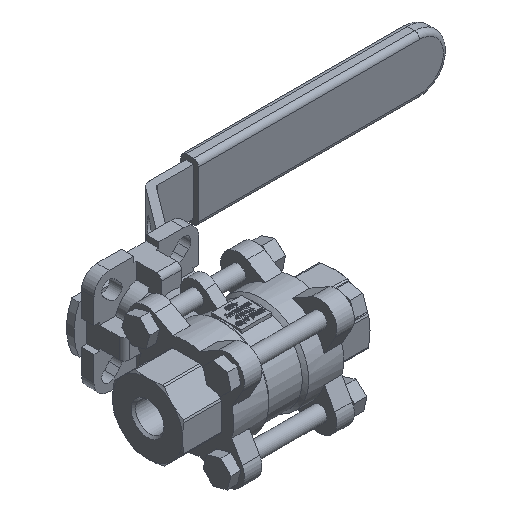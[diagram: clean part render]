
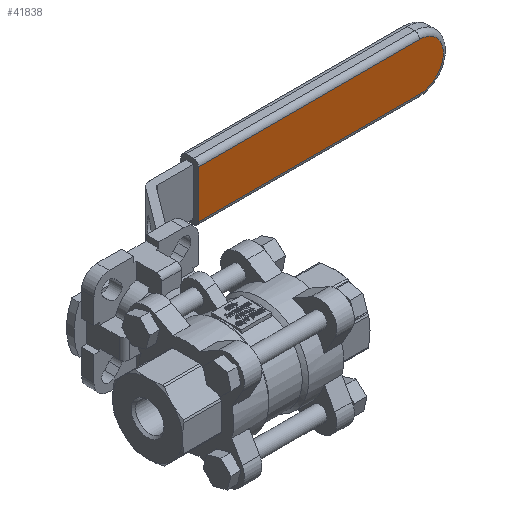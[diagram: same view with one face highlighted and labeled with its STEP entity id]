
A CAD part, isometric view. The second image highlights one B-rep face of the part: STEP entity #41838.
In plain terms, the highlighted planar face has unit normal (0, -1, 0).
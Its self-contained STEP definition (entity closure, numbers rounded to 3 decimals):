
#41721=CARTESIAN_POINT('',(50.335,67.5,9.5));
#41722=VERTEX_POINT('',#41721);
#41730=CARTESIAN_POINT('',(138.835,67.5,9.5));
#41731=VERTEX_POINT('',#41730);
#41732=CARTESIAN_POINT('',(50.335,67.5,9.5));
#41733=DIRECTION('',(1.0,0.0,0.0));
#41734=VECTOR('',#41733,88.5);
#41735=LINE('',#41732,#41734);
#41736=EDGE_CURVE('',#41722,#41731,#41735,.T.);
#41761=CARTESIAN_POINT('',(138.835,67.5,-9.5));
#41762=VERTEX_POINT('',#41761);
#41780=CARTESIAN_POINT('',(138.835,67.5,0.));
#41781=DIRECTION('',(0.0,1.0,0.0));
#41782=DIRECTION('',(1.0,0.0,0.0));
#41783=AXIS2_PLACEMENT_3D('',#41780,#41781,#41782);
#41784=CIRCLE('',#41783,9.5);
#41785=EDGE_CURVE('',#41731,#41762,#41784,.T.);
#41795=CARTESIAN_POINT('',(50.335,67.5,-9.5));
#41796=VERTEX_POINT('',#41795);
#41813=CARTESIAN_POINT('',(138.835,67.5,-9.5));
#41814=DIRECTION('',(-1.0,0.0,0.0));
#41815=VECTOR('',#41814,88.5);
#41816=LINE('',#41813,#41815);
#41817=EDGE_CURVE('',#41762,#41796,#41816,.T.);
#41822=CARTESIAN_POINT('',(50.335,67.5,-11.5));
#41823=DIRECTION('',(0.0,-1.0,0.0));
#41824=DIRECTION('',(0.0,0.0,-1.0));
#41825=AXIS2_PLACEMENT_3D('',#41822,#41823,#41824);
#41826=PLANE('',#41825);
#41827=ORIENTED_EDGE('',*,*,#41817,.F.);
#41828=ORIENTED_EDGE('',*,*,#41785,.F.);
#41829=ORIENTED_EDGE('',*,*,#41736,.F.);
#41830=CARTESIAN_POINT('',(50.335,67.5,-9.5));
#41831=DIRECTION('',(0.0,0.0,1.0));
#41832=VECTOR('',#41831,19.0);
#41833=LINE('',#41830,#41832);
#41834=EDGE_CURVE('',#41796,#41722,#41833,.T.);
#41835=ORIENTED_EDGE('',*,*,#41834,.F.);
#41836=EDGE_LOOP('',(#41827,#41828,#41829,#41835));
#41837=FACE_OUTER_BOUND('',#41836,.T.);
#41838=ADVANCED_FACE('',(#41837),#41826,.T.);
